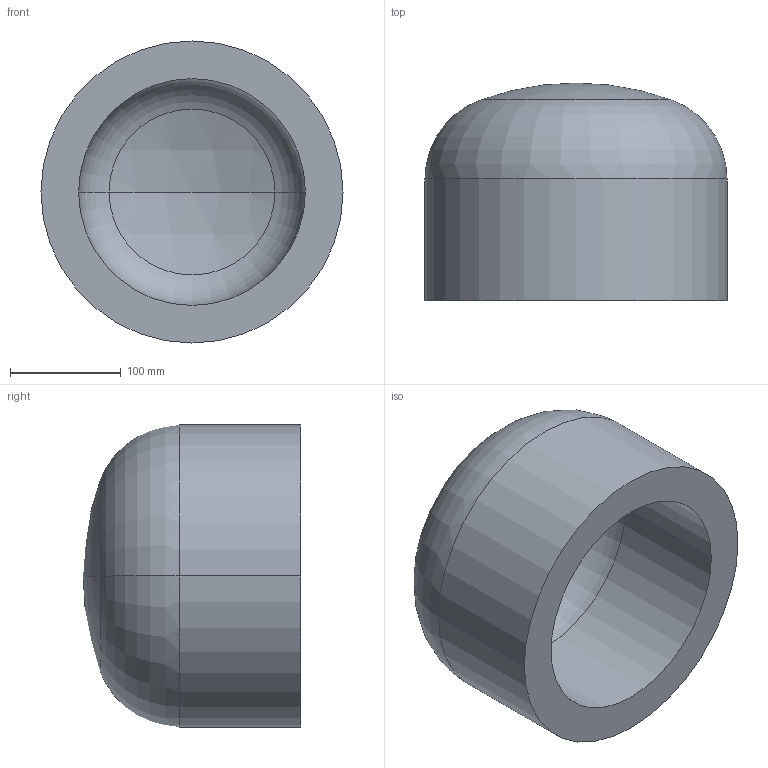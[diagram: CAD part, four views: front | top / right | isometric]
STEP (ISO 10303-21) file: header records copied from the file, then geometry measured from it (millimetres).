
FILE_DESCRIPTION (( 'STEP AP203' ), '1' );
FILE_NAME ('DIN 28013 Korbbogenform_-_Boden DIN 28013 - 273 x 110 - I - s=34.step', '2016-07-01T07:43:57', ( '' ), ( '' ), 'SwSTEP 2.0', 'SolidWorks 2013', '' );
FILE_SCHEMA (( 'CONFIG_CONTROL_DESIGN' ));
Length unit declared in the file: millimetre
Products named in the file (1): DIN 28013 Korbbogenform_-_Boden DIN 28013 - 273 x 110 - I - s=34
Bounding box: 273 x 196.73 x 273 mm (x, y, z)
Volume: 5176201.4 mm3; surface area: 332432.1 mm2
Topology: 1 solids, 1 shells, 13 faces, 24 edges, 14 vertices
Faces by surface type: torus 4, cylinder 4, sphere 4, plane 1
Entity records: 407 total; most frequent: DIRECTION 72, CARTESIAN_POINT 52, ORIENTED_EDGE 48, AXIS2_PLACEMENT_3D 34, EDGE_CURVE 24, CIRCLE 20, VERTEX_POINT 14, EDGE_LOOP 14
